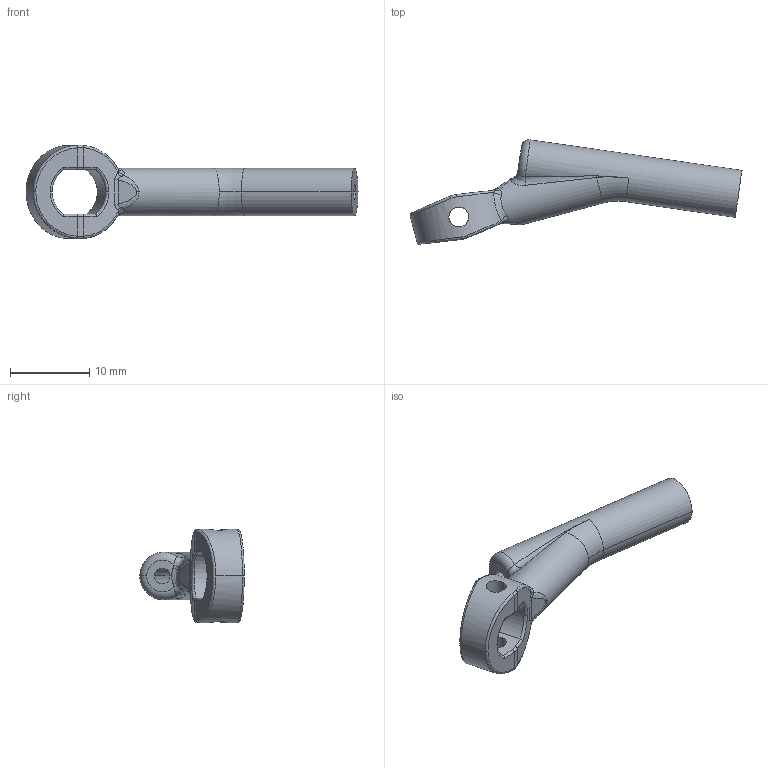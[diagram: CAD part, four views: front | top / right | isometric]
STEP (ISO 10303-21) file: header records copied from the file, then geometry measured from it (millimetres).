
FILE_DESCRIPTION (( 'STEP AP214' ), '1' );
FILE_NAME ('Ãèïåð òÿãà.STEP', '2019-03-21T14:16:40', ( '' ), ( '' ), 'SwSTEP 2.0', 'SolidWorks 2018', '' );
FILE_SCHEMA (( 'AUTOMOTIVE_DESIGN' ));
Length unit declared in the file: millimetre
Products named in the file (1): Ãèïåð òÿãà
Bounding box: 41.92 x 13.18 x 11.8 mm (x, y, z)
Volume: 1264 mm3; surface area: 1272 mm2
Topology: 1 solids, 1 shells, 90 faces, 228 edges, 136 vertices
Faces by surface type: bspline 44, cylinder 28, plane 10, torus 8
Entity records: 3750 total; most frequent: CARTESIAN_POINT 1944, ORIENTED_EDGE 452, DIRECTION 282, EDGE_CURVE 226, VERTEX_POINT 136, AXIS2_PLACEMENT_3D 120, EDGE_LOOP 96, FACE_OUTER_BOUND 90
